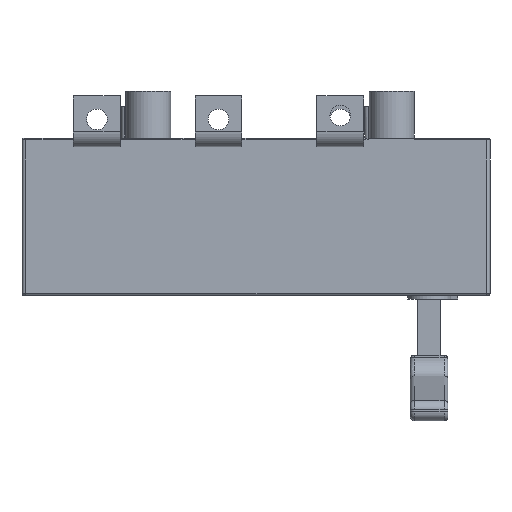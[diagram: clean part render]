
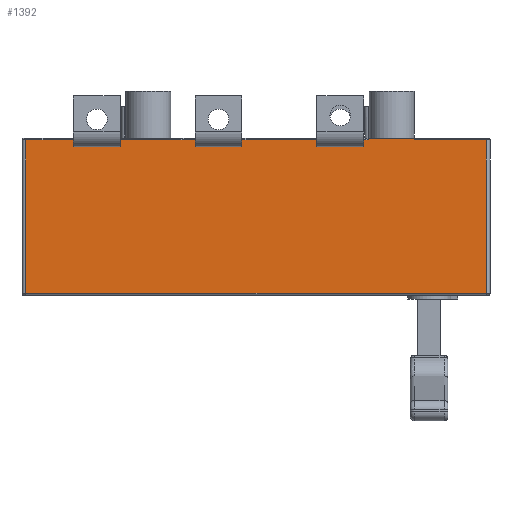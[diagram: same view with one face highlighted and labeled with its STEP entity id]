
A CAD part, front view. The second image highlights one B-rep face of the part: STEP entity #1392.
In plain terms, the highlighted planar face has unit normal (0, -1, 0).
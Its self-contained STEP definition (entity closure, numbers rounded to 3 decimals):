
#293=PLANE('',#4977);
#479=LINE('',#6599,#836);
#490=LINE('',#6629,#847);
#492=LINE('',#6635,#849);
#511=LINE('',#6699,#868);
#522=LINE('',#6727,#879);
#524=LINE('',#6735,#881);
#543=LINE('',#6799,#900);
#554=LINE('',#6827,#911);
#556=LINE('',#6835,#913);
#667=LINE('',#7265,#1024);
#676=LINE('',#7356,#1033);
#681=LINE('',#7373,#1038);
#682=LINE('',#7375,#1039);
#704=LINE('',#7499,#1061);
#711=LINE('',#7548,#1068);
#743=LINE('',#7648,#1100);
#749=LINE('',#7660,#1106);
#759=LINE('',#7680,#1116);
#772=LINE('',#7710,#1129);
#776=LINE('',#7716,#1133);
#782=LINE('',#7725,#1139);
#783=LINE('',#7727,#1140);
#836=VECTOR('',#5242,1.);
#847=VECTOR('',#5271,1.);
#849=VECTOR('',#5277,1.);
#868=VECTOR('',#5338,1.);
#879=VECTOR('',#5365,1.);
#881=VECTOR('',#5373,1.);
#900=VECTOR('',#5434,1.);
#911=VECTOR('',#5461,1.);
#913=VECTOR('',#5469,1.);
#1024=VECTOR('',#5900,1.);
#1033=VECTOR('',#5965,1.);
#1038=VECTOR('',#5988,1.);
#1039=VECTOR('',#5991,1.);
#1061=VECTOR('',#6129,1.);
#1068=VECTOR('',#6150,1.);
#1100=VECTOR('',#6250,1.);
#1106=VECTOR('',#6262,1.);
#1116=VECTOR('',#6284,1.);
#1129=VECTOR('',#6327,1.);
#1133=VECTOR('',#6335,1.);
#1139=VECTOR('',#6347,1.);
#1140=VECTOR('',#6350,1.);
#1392=ADVANCED_FACE('',(#1592),#293,.T.);
#1592=FACE_OUTER_BOUND('',#1916,.T.);
#1916=EDGE_LOOP('',(#3120,#3121,#3122,#3123,#3124,#3125,#3126,#3127,#3128,
#3129,#3130,#3131,#3132,#3133,#3134,#3135,#3136,#3137,#3138,#3139,#3140,
#3141));
#3120=ORIENTED_EDGE('',*,*,#3694,.F.);
#3121=ORIENTED_EDGE('',*,*,#3712,.T.);
#3122=ORIENTED_EDGE('',*,*,#4205,.T.);
#3123=ORIENTED_EDGE('',*,*,#3756,.F.);
#3124=ORIENTED_EDGE('',*,*,#3742,.F.);
#3125=ORIENTED_EDGE('',*,*,#3760,.F.);
#3126=ORIENTED_EDGE('',*,*,#4198,.T.);
#3127=ORIENTED_EDGE('',*,*,#3804,.F.);
#3128=ORIENTED_EDGE('',*,*,#3790,.F.);
#3129=ORIENTED_EDGE('',*,*,#3808,.F.);
#3130=ORIENTED_EDGE('',*,*,#4194,.T.);
#3131=ORIENTED_EDGE('',*,*,#4044,.F.);
#3132=ORIENTED_EDGE('',*,*,#4034,.T.);
#3133=ORIENTED_EDGE('',*,*,#4043,.T.);
#3134=ORIENTED_EDGE('',*,*,#4004,.T.);
#3135=ORIENTED_EDGE('',*,*,#4168,.T.);
#3136=ORIENTED_EDGE('',*,*,#4161,.F.);
#3137=ORIENTED_EDGE('',*,*,#4097,.F.);
#3138=ORIENTED_EDGE('',*,*,#4179,.T.);
#3139=ORIENTED_EDGE('',*,*,#4110,.T.);
#3140=ORIENTED_EDGE('',*,*,#4204,.T.);
#3141=ORIENTED_EDGE('',*,*,#3709,.T.);
#3232=VERTEX_POINT('',#6597);
#3234=VERTEX_POINT('',#6600);
#3243=VERTEX_POINT('',#6627);
#3245=VERTEX_POINT('',#6634);
#3269=VERTEX_POINT('',#6698);
#3270=VERTEX_POINT('',#6700);
#3279=VERTEX_POINT('',#6728);
#3281=VERTEX_POINT('',#6734);
#3305=VERTEX_POINT('',#6798);
#3306=VERTEX_POINT('',#6800);
#3315=VERTEX_POINT('',#6828);
#3317=VERTEX_POINT('',#6834);
#3458=VERTEX_POINT('',#7243);
#3459=VERTEX_POINT('',#7263);
#3467=VERTEX_POINT('',#7284);
#3477=VERTEX_POINT('',#7311);
#3481=VERTEX_POINT('',#7353);
#3529=VERTEX_POINT('',#7498);
#3530=VERTEX_POINT('',#7500);
#3537=VERTEX_POINT('',#7530);
#3540=VERTEX_POINT('',#7547);
#3575=VERTEX_POINT('',#7649);
#3694=EDGE_CURVE('',#3232,#3234,#479,.T.);
#3709=EDGE_CURVE('',#3243,#3234,#490,.T.);
#3712=EDGE_CURVE('',#3232,#3245,#492,.T.);
#3742=EDGE_CURVE('',#3269,#3270,#511,.T.);
#3756=EDGE_CURVE('',#3270,#3279,#522,.T.);
#3760=EDGE_CURVE('',#3281,#3269,#524,.T.);
#3790=EDGE_CURVE('',#3305,#3306,#543,.T.);
#3804=EDGE_CURVE('',#3306,#3315,#554,.T.);
#3808=EDGE_CURVE('',#3317,#3305,#556,.T.);
#4004=EDGE_CURVE('',#3458,#3459,#667,.T.);
#4034=EDGE_CURVE('',#3481,#3477,#676,.T.);
#4043=EDGE_CURVE('',#3477,#3458,#681,.T.);
#4044=EDGE_CURVE('',#3481,#3467,#682,.T.);
#4097=EDGE_CURVE('',#3529,#3530,#704,.T.);
#4110=EDGE_CURVE('',#3537,#3540,#711,.T.);
#4161=EDGE_CURVE('',#3530,#3575,#743,.T.);
#4168=EDGE_CURVE('',#3459,#3575,#749,.T.);
#4179=EDGE_CURVE('',#3529,#3537,#759,.T.);
#4194=EDGE_CURVE('',#3317,#3467,#772,.T.);
#4198=EDGE_CURVE('',#3281,#3315,#776,.T.);
#4204=EDGE_CURVE('',#3540,#3243,#782,.T.);
#4205=EDGE_CURVE('',#3245,#3279,#783,.T.);
#4977=AXIS2_PLACEMENT_3D('',#7731,#6356,#6357);
#5242=DIRECTION('',(1.,0.,0.));
#5271=DIRECTION('',(0.,0.,-1.));
#5277=DIRECTION('',(0.,0.,1.));
#5338=DIRECTION('',(1.,0.,0.));
#5365=DIRECTION('',(0.,0.,1.));
#5373=DIRECTION('',(0.,0.,-1.));
#5434=DIRECTION('',(1.,0.,0.));
#5461=DIRECTION('',(0.,0.,1.));
#5469=DIRECTION('',(0.,0.,-1.));
#5900=DIRECTION('',(-1.,0.,0.));
#5965=DIRECTION('',(1.,0.,0.));
#5988=DIRECTION('',(0.,0.,1.));
#5991=DIRECTION('',(0.,0.,1.));
#6129=DIRECTION('',(0.,0.,-1.));
#6150=DIRECTION('',(0.,0.,-1.));
#6250=DIRECTION('',(1.,0.,0.));
#6262=DIRECTION('',(0.,0.,1.));
#6284=DIRECTION('',(-1.,0.,0.));
#6327=DIRECTION('',(-1.,0.,0.));
#6335=DIRECTION('',(-1.,0.,0.));
#6347=DIRECTION('',(-1.,0.,0.));
#6350=DIRECTION('',(-1.,0.,0.));
#6356=DIRECTION('',(0.,-1.,0.));
#6357=DIRECTION('',(1.,0.,0.));
#6597=CARTESIAN_POINT('',(-40.,-52.5,-4.118));
#6599=CARTESIAN_POINT('',(-40.,-52.5,-4.118));
#6600=CARTESIAN_POINT('',(-15.,-52.5,-4.118));
#6627=CARTESIAN_POINT('',(-15.,-52.5,-1.));
#6629=CARTESIAN_POINT('',(-15.,-52.5,4.));
#6634=CARTESIAN_POINT('',(-40.,-52.5,-1.));
#6635=CARTESIAN_POINT('',(-40.,-52.5,4.));
#6698=CARTESIAN_POINT('',(-105.,-52.5,-4.118));
#6699=CARTESIAN_POINT('',(-105.,-52.5,-4.118));
#6700=CARTESIAN_POINT('',(-80.,-52.5,-4.118));
#6727=CARTESIAN_POINT('',(-80.,-52.5,4.));
#6728=CARTESIAN_POINT('',(-80.,-52.5,-1.));
#6734=CARTESIAN_POINT('',(-105.,-52.5,-1.));
#6735=CARTESIAN_POINT('',(-105.,-52.5,4.));
#6798=CARTESIAN_POINT('',(-170.,-52.5,-4.118));
#6799=CARTESIAN_POINT('',(-170.,-52.5,-4.118));
#6800=CARTESIAN_POINT('',(-145.,-52.5,-4.118));
#6827=CARTESIAN_POINT('',(-145.,-52.5,4.));
#6828=CARTESIAN_POINT('',(-145.,-52.5,-1.));
#6834=CARTESIAN_POINT('',(-170.,-52.5,-1.));
#6835=CARTESIAN_POINT('',(-170.,-52.5,4.));
#7243=CARTESIAN_POINT('',(50.5,-52.5,-1.));
#7263=CARTESIAN_POINT('',(12.,-52.5,-1.));
#7265=CARTESIAN_POINT('',(12.,-52.5,-1.));
#7284=CARTESIAN_POINT('',(-195.5,-52.5,-1.));
#7311=CARTESIAN_POINT('',(50.5,-52.5,-83.));
#7353=CARTESIAN_POINT('',(-195.5,-52.5,-83.));
#7356=CARTESIAN_POINT('',(-12.,-52.5,-83.));
#7373=CARTESIAN_POINT('',(50.5,-52.5,-84.));
#7375=CARTESIAN_POINT('',(-195.5,-52.5,-84.));
#7498=CARTESIAN_POINT('',(-12.,-52.5,17.));
#7499=CARTESIAN_POINT('',(-12.,-52.5,25.));
#7500=CARTESIAN_POINT('',(-12.,-52.5,0.));
#7530=CARTESIAN_POINT('',(-12.5,-52.5,17.));
#7547=CARTESIAN_POINT('',(-12.5,-52.5,-1.));
#7548=CARTESIAN_POINT('',(-12.5,-52.5,4.));
#7648=CARTESIAN_POINT('',(50.5,-52.5,0.));
#7649=CARTESIAN_POINT('',(12.,-52.5,0.));
#7660=CARTESIAN_POINT('',(12.,-52.5,4.));
#7680=CARTESIAN_POINT('',(7.5,-52.5,17.));
#7710=CARTESIAN_POINT('',(-195.5,-52.5,-1.));
#7716=CARTESIAN_POINT('',(-195.5,-52.5,-1.));
#7725=CARTESIAN_POINT('',(-195.5,-52.5,-1.));
#7727=CARTESIAN_POINT('',(-195.5,-52.5,-1.));
#7731=CARTESIAN_POINT('',(-12.,-52.5,4.));
